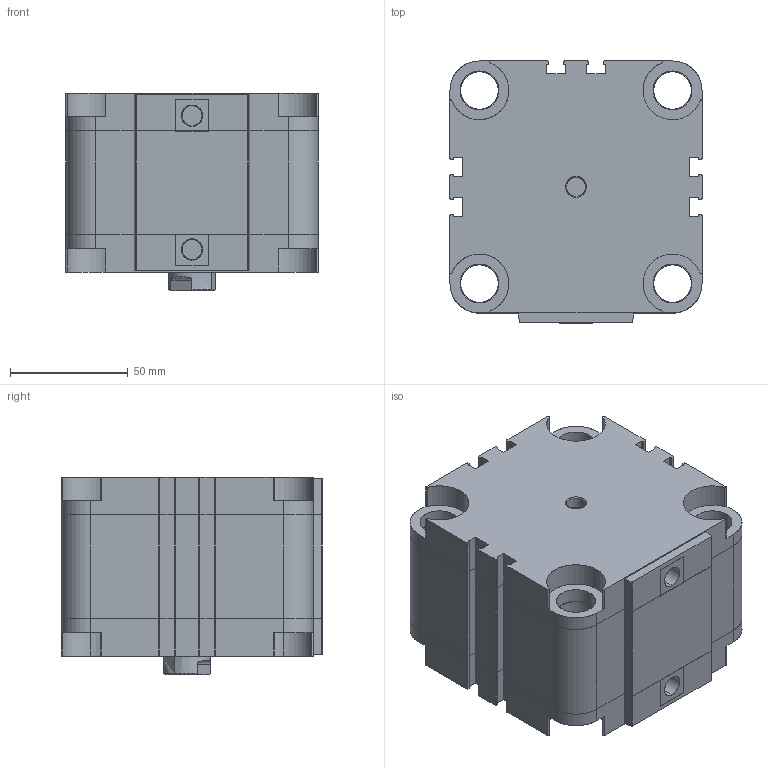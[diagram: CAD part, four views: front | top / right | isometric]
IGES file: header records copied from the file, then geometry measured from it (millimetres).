
Start section: SolidWorks IGES file using analytic representation for surfaces
Global section: file name: D:\ARICA 3D ÇÝZÝMLER\3D IGES\AEVU-S\AEVU-S 80\AEVU80X20-S-CYLINDER.IGS; native system: SolidWorks 2013; preprocessor: SolidWorks 2013; author: user; date: 150606.120204; units: millimetre
Bounding box: 107 x 111.2 x 83.96 mm (x, y, z)
Surface area: 157054.1 mm2 (no closed solid volume)
Topology: 0 solids, 0 shells, 558 faces, 8961 edges, 8961 vertices
Faces by surface type: revolution 298, bspline 260
